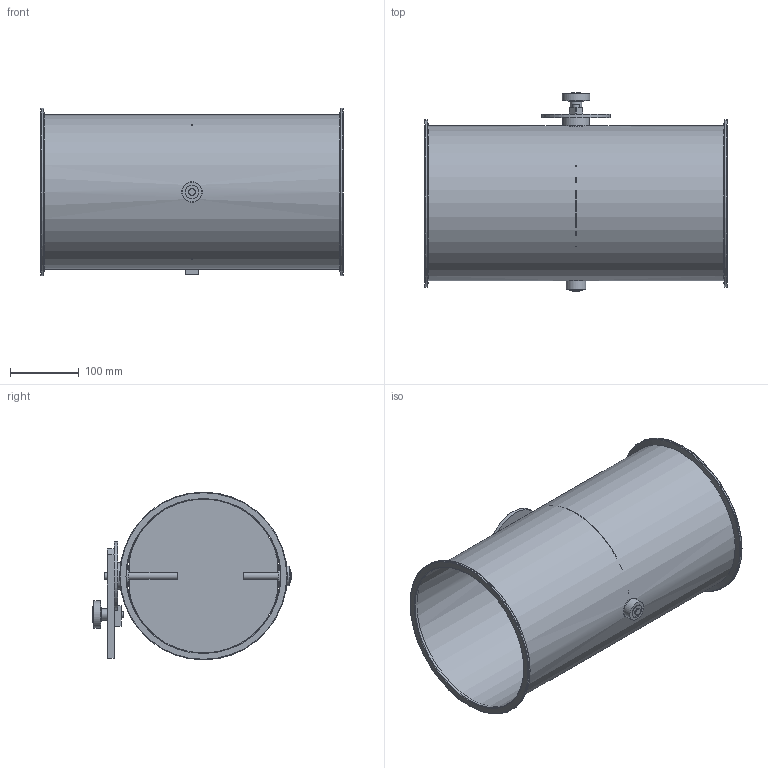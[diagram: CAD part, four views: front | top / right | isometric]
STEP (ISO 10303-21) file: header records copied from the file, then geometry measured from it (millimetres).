
FILE_DESCRIPTION(/* description */ (''),/* implementation_level */ '2;1');
FILE_NAME(/* name */ 'METU_Drosselklappe_Flansch_verzinkt_EA102-80B__224_L440_handbetaetigt.stp',/* time_stamp */ '2022-04-22T14:43:23+02:00',/* author */ (''),/* organization */ (''),/* preprocessor_version */ 'ST-DEVELOPER v11',/* originating_system */ 'SIEMENS UGS NX 6.0',/* authorisation */ '');
FILE_SCHEMA (('CONFIG_CONTROL_DESIGN'));
Length unit declared in the file: millimetre
Products named in the file (1): d.ga332Aq97z
Bounding box: 440 x 289.31 x 244 mm (x, y, z)
Volume: 478466.2 mm3; surface area: 776980.3 mm2
Topology: 12 solids, 12 shells, 85 faces, 172 edges, 116 vertices
Faces by surface type: plane 40, cylinder 35, torus 6, cone 2, sphere 2
Full cylindrical faces by diameter (mm): 4.4 x5, 6.8 x1, 8 x1, 9 x1, 10 x5, 16.5 x1, 19 x3, 19.85 x2, 20 x2, 29 x1, 30 x2, 35 x1, 39 x1, 40 x1, 100 x1, 224 x1, 225.6 x1, 244 x2
Entity records: 2112 total; most frequent: CARTESIAN_POINT 374, DIRECTION 358, ORIENTED_EDGE 236, EDGE_LOOP 162, AXIS2_PLACEMENT_3D 158, FACE_BOUND 140, EDGE_CURVE 118, VERTEX_POINT 102
